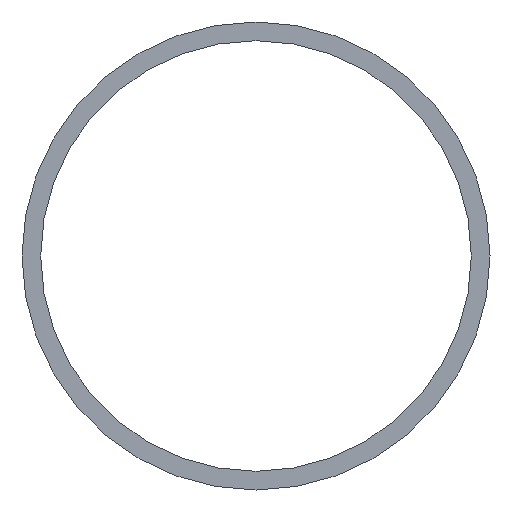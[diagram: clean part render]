
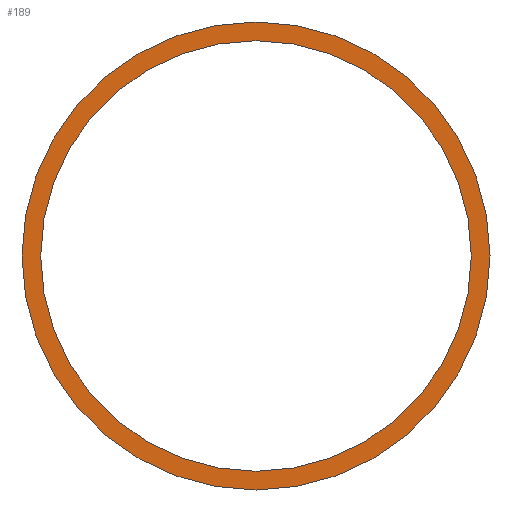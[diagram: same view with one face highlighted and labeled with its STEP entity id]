
A CAD part, front view. The second image highlights one B-rep face of the part: STEP entity #189.
In plain terms, the highlighted planar face has unit normal (0, -1, 0).
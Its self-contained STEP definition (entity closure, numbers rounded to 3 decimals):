
#5 = VERTEX_POINT ( 'NONE', #147 ) ;
#6 = DIRECTION ( 'NONE',  ( 0., 1., 0. ) ) ;
#22 = ORIENTED_EDGE ( 'NONE', *, *, #166, .T. ) ;
#23 = CARTESIAN_POINT ( 'NONE',  ( 0., -750., 0. ) ) ;
#28 = CARTESIAN_POINT ( 'NONE',  ( 0., -750., 0. ) ) ;
#30 = CIRCLE ( 'NONE', #197, 10. ) ;
#36 = ORIENTED_EDGE ( 'NONE', *, *, #91, .F. ) ;
#38 = CARTESIAN_POINT ( 'NONE',  ( 0., -750., 0. ) ) ;
#39 = VERTEX_POINT ( 'NONE', #104 ) ;
#41 = CARTESIAN_POINT ( 'NONE',  ( 0., -750., 0. ) ) ;
#45 = CIRCLE ( 'NONE', #98, 9.2 ) ;
#53 = DIRECTION ( 'NONE',  ( 0., 1., 0. ) ) ;
#54 = CIRCLE ( 'NONE', #92, 9.2 ) ;
#55 = DIRECTION ( 'NONE',  ( 0., 0., 1. ) ) ;
#57 = DIRECTION ( 'NONE',  ( 0., 0., 1. ) ) ;
#58 = DIRECTION ( 'NONE',  ( 0., 0., 1. ) ) ;
#64 = AXIS2_PLACEMENT_3D ( 'NONE', #28, #186, #204 ) ;
#77 = EDGE_CURVE ( 'NONE', #173, #145, #103, .T. ) ;
#91 = EDGE_CURVE ( 'NONE', #145, #173, #30, .T. ) ;
#92 = AXIS2_PLACEMENT_3D ( 'NONE', #38, #152, #55 ) ;
#94 = CARTESIAN_POINT ( 'NONE',  ( 0., -750., -10. ) ) ;
#98 = AXIS2_PLACEMENT_3D ( 'NONE', #41, #156, #58 ) ;
#103 = CIRCLE ( 'NONE', #64, 10. ) ;
#104 = CARTESIAN_POINT ( 'NONE',  ( 0., -750., -9.2 ) ) ;
#106 = FACE_BOUND ( 'NONE', #129, .T. ) ;
#109 = ORIENTED_EDGE ( 'NONE', *, *, #199, .T. ) ;
#114 = CARTESIAN_POINT ( 'NONE',  ( 0., -750., 0. ) ) ;
#116 = AXIS2_PLACEMENT_3D ( 'NONE', #23, #6, #57 ) ;
#123 = EDGE_LOOP ( 'NONE', ( #36, #196 ) ) ;
#129 = EDGE_LOOP ( 'NONE', ( #22, #109 ) ) ;
#145 = VERTEX_POINT ( 'NONE', #94 ) ;
#147 = CARTESIAN_POINT ( 'NONE',  ( 0., -750., 9.2 ) ) ;
#151 = DIRECTION ( 'NONE',  ( 0., 0., 1. ) ) ;
#152 = DIRECTION ( 'NONE',  ( 0., 1., 0. ) ) ;
#153 = PLANE ( 'NONE',  #116 ) ;
#156 = DIRECTION ( 'NONE',  ( 0., 1., 0. ) ) ;
#164 = FACE_OUTER_BOUND ( 'NONE', #123, .T. ) ;
#166 = EDGE_CURVE ( 'NONE', #39, #5, #54, .T. ) ;
#173 = VERTEX_POINT ( 'NONE', #188 ) ;
#186 = DIRECTION ( 'NONE',  ( 0., 1., 0. ) ) ;
#188 = CARTESIAN_POINT ( 'NONE',  ( 0., -750., 10. ) ) ;
#189 = ADVANCED_FACE ( 'NONE', ( #164, #106 ), #153, .F. ) ;
#196 = ORIENTED_EDGE ( 'NONE', *, *, #77, .F. ) ;
#197 = AXIS2_PLACEMENT_3D ( 'NONE', #114, #53, #151 ) ;
#199 = EDGE_CURVE ( 'NONE', #5, #39, #45, .T. ) ;
#204 = DIRECTION ( 'NONE',  ( 0., 0., 1. ) ) ;
